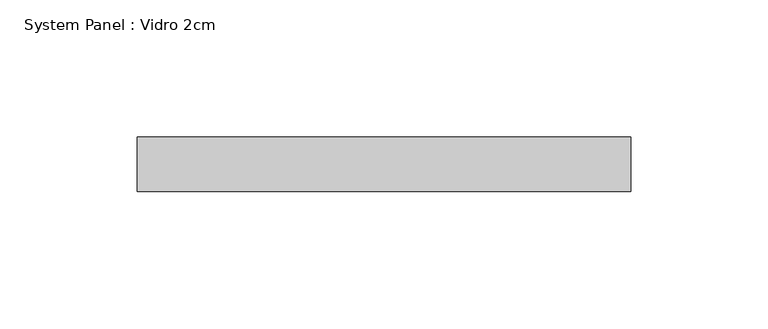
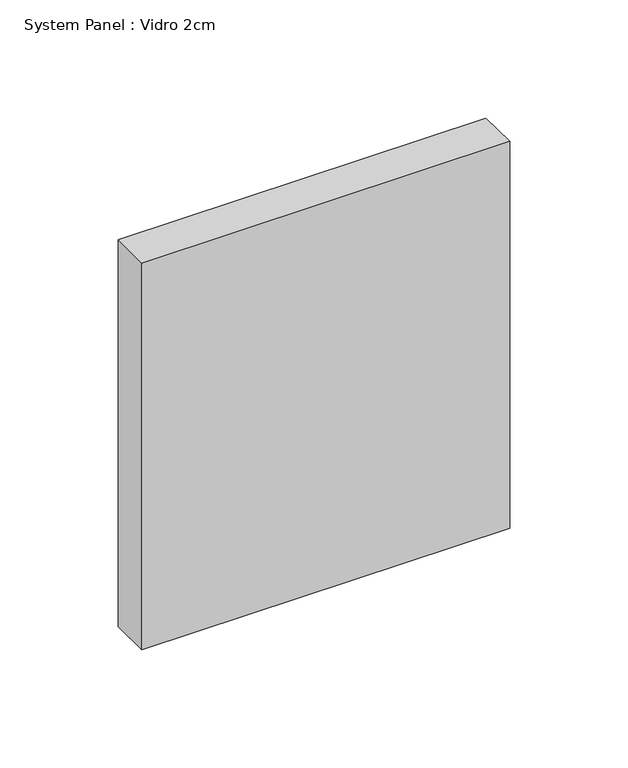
"""IFC4 building model written with IfcOpenShell, lengths in millimetres: plate geometry, System Panel : Vidro 2cm."""

import ifcopenshell
import ifcopenshell.guid

model = None  # the IFC model being written
_history = None  # IfcOwnerHistory: only IFC2X3 demands one
_inside = {}  # id of a spatial element -> (the spatial element, [elements in it])
_under = {}  # id of a project, library or spatial element -> (it, [spatial elements below it])
_declared = {}  # id of a project -> (the project, [libraries it declares])
_typed = {}  # id of a type object -> (the type object, [elements of that type])
_made_of = {}  # id of a material, layer set ... -> (it, [elements and type objects made of it])


def new_model(schema):
    """Start an empty IFC model of exactly this schema.

    Asked for "IFC4X3", IfcOpenShell would pick the latest addendum, in which some entities
    have other attributes; the version numbers below select the first issue.
    IFC2X3 requires an IfcOwnerHistory on every rooted entity: one is made here for all.
    """
    global model, _history
    if schema == "IFC4X3":
        model = ifcopenshell.file(schema_version=(4, 3, 0, 0))
    else:
        model = ifcopenshell.file(schema=schema)
    _inside.clear()
    _under.clear()
    _declared.clear()
    _typed.clear()
    _made_of.clear()
    _history = None
    if model.schema == "IFC2X3":
        org = make("IfcOrganization", Name="unknown")
        user = make(
            "IfcPersonAndOrganization",
            ThePerson=make("IfcPerson", FamilyName="unknown"),
            TheOrganization=org,
        )
        app = make(
            "IfcApplication",
            ApplicationDeveloper=org,
            Version="unknown",
            ApplicationFullName="unknown",
            ApplicationIdentifier="unknown",
        )
        _history = make(
            "IfcOwnerHistory",
            OwningUser=user,
            OwningApplication=app,
            ChangeAction="ADDED",
            CreationDate=0,
        )
    return model


def make(cls, **values):
    """One entity of the class cls with the attributes given. An attribute that is None is left unset."""
    return model.create_entity(
        cls, **{name: value for name, value in values.items() if value is not None}
    )


def rooted(cls, **values):
    """An entity with a GlobalId (a new one), such as an element, a storey or a relation."""
    return make(cls, GlobalId=ifcopenshell.guid.new(), OwnerHistory=_history, **values)


def si_unit(unit_type, name, prefix=None):
    """IfcSIUnit, for example si_unit("LENGTHUNIT", "METRE", prefix="MILLI")."""
    return make("IfcSIUnit", UnitType=unit_type, Prefix=prefix, Name=name)


def assignment(units):
    """IfcUnitAssignment: the units of a project."""
    return None if units is None else make("IfcUnitAssignment", Units=units)


def point(xyz):
    """IfcCartesianPoint."""
    return None if xyz is None else make("IfcCartesianPoint", Coordinates=xyz)


def direction(xyz):
    """IfcDirection."""
    return None if xyz is None else make("IfcDirection", DirectionRatios=xyz)


def frame(location, z_axis=None, x_axis=None):
    """IfcAxis2Placement3D, a coordinate frame: its origin and axes. An axis left out is left unset."""
    return make(
        "IfcAxis2Placement3D",
        Location=point(location),
        Axis=direction(z_axis),
        RefDirection=direction(x_axis),
    )


def origin():
    """The frame at (0, 0, 0) with its axes left unset."""
    return frame((0.0, 0.0, 0.0))


def origin_with_axes():
    """The frame at (0, 0, 0) with the z axis (0, 0, 1) and the x axis (1, 0, 0) written out."""
    return frame((0.0, 0.0, 0.0), z_axis=(0.0, 0.0, 1.0), x_axis=(1.0, 0.0, 0.0))


def place(relative_to, where):
    """IfcLocalPlacement: puts the frame where relative to a parent placement (None: the world)."""
    return make(
        "IfcLocalPlacement", PlacementRelTo=relative_to, RelativePlacement=where
    )


def context(
    kind, dimensions, precision=None, world=None, true_north=None, identifier=None
):
    """IfcGeometricRepresentationContext, for example the 3D "Model" context."""
    return make(
        "IfcGeometricRepresentationContext",
        ContextIdentifier=identifier,
        ContextType=kind,
        CoordinateSpaceDimension=dimensions,
        Precision=precision,
        WorldCoordinateSystem=world,
        TrueNorth=true_north,
    )


def project(units=None, contexts=None):
    """IfcProject with its units and contexts."""
    return rooted(
        "IfcProject",
        Name="project",
        RepresentationContexts=contexts,
        UnitsInContext=assignment(units),
    )


def spatial(cls, under=None, at=None, **own):
    """A site, building, storey or space (cls), placed at a placement, below another one or the project."""
    s = rooted(cls, ObjectPlacement=at, **own)
    if under is not None:
        _under.setdefault(under.id(), (under, []))[1].append(s)
    return s


def polyline(points):
    """IfcPolyline through the points."""
    return make("IfcPolyline", Points=[point(p) for p in points])


def outline(outer, holes=None, kind="AREA"):
    """IfcArbitraryClosedProfileDef: a profile drawn as a closed curve; with holes, ...WithVoids."""
    if holes is None:
        return make("IfcArbitraryClosedProfileDef", ProfileType=kind, OuterCurve=outer)
    return make(
        "IfcArbitraryProfileDefWithVoids",
        ProfileType=kind,
        OuterCurve=outer,
        InnerCurves=holes,
    )


def extrude(swept, where, along, depth):
    """IfcExtrudedAreaSolid: the profile swept, set in the frame where, extruded along a direction by depth."""
    return make(
        "IfcExtrudedAreaSolid",
        SweptArea=swept,
        Position=where,
        ExtrudedDirection=direction(along),
        Depth=depth,
    )


def shape(context_of_items, identifier, shape_type, items):
    """IfcShapeRepresentation: the items that make up one representation, for example the "Body"."""
    return make(
        "IfcShapeRepresentation",
        ContextOfItems=context_of_items,
        RepresentationIdentifier=identifier,
        RepresentationType=shape_type,
        Items=items,
    )


def source(mapping_origin, context_of_items, identifier, shape_type, items):
    """IfcRepresentationMap: a shape defined once, which mapped items show again and again."""
    return make(
        "IfcRepresentationMap",
        MappingOrigin=mapping_origin,
        MappedRepresentation=shape(context_of_items, identifier, shape_type, items),
    )


def transform(
    local_origin,
    x_axis=None,
    y_axis=None,
    z_axis=None,
    scale=None,
    scale2=None,
    scale3=None,
    uniform=True,
):
    """IfcCartesianTransformationOperator3D, or its non-uniform kind. x_axis, y_axis, z_axis: its Axis1, 2, 3."""
    if uniform:
        return make(
            "IfcCartesianTransformationOperator3D",
            Axis1=direction(x_axis),
            Axis2=direction(y_axis),
            LocalOrigin=point(local_origin),
            Scale=scale,
            Axis3=direction(z_axis),
        )
    return make(
        "IfcCartesianTransformationOperator3DnonUniform",
        Axis1=direction(x_axis),
        Axis2=direction(y_axis),
        LocalOrigin=point(local_origin),
        Scale=scale,
        Axis3=direction(z_axis),
        Scale2=scale2,
        Scale3=scale3,
    )


def mapped(mapping_source, mapping_target):
    """IfcMappedItem: shows the shape of a source again, moved by a transform."""
    return make(
        "IfcMappedItem", MappingSource=mapping_source, MappingTarget=mapping_target
    )


def made_of(thing, what):
    """Note that an element or type object is made of a material, layer set ...; save() writes the relation."""
    if what is not None:
        _made_of.setdefault(what.id(), (what, []))[1].append(thing)
    return thing


def element(
    cls,
    number,
    at=None,
    inside=None,
    cuts=None,
    type_object=None,
    material=None,
    context=None,
    identifier="Body",
    shape_type=None,
    held_by="IfcProductDefinitionShape",
    body=None,
    shapes=None,
    **own,
):
    """One element of the class cls, such as IfcWall. Its Tag is "e" and its number.

    at: its placement. inside: the storey or other place that contains it. cuts: it is an
    opening in that element (IfcRelVoidsElement). A single representation is given by context,
    identifier, shape_type and body (its items); several are given by shapes. held_by: the class
    of the entity that holds the representations. save() writes the other relations.
    """
    e = rooted(cls, Tag="e%d" % number, ObjectPlacement=at, **own)
    if body is not None:
        shapes = [shape(context, identifier, shape_type, body)]
    if shapes is not None:
        e.Representation = make(held_by, Representations=shapes)
    if inside is not None:
        _inside.setdefault(inside.id(), (inside, []))[1].append(e)
    if cuts is not None:
        rooted(
            "IfcRelVoidsElement", RelatingBuildingElement=cuts, RelatedOpeningElement=e
        )
    if type_object is not None:
        _typed.setdefault(type_object.id(), (type_object, []))[1].append(e)
    return made_of(e, material)


def aggregate(whole, parts):
    """IfcRelAggregates: a whole, such as a stair, and the parts it consists of."""
    return rooted("IfcRelAggregates", RelatingObject=whole, RelatedObjects=parts)


def save(model, path):
    """Write the relations noted so far, then the file.

    IfcRelAggregates (storeys below a building ...), IfcRelContainedInSpatialStructure (elements
    in a storey), IfcRelDefinesByType, IfcRelAssociatesMaterial and IfcRelDeclares: one each for
    every whole, place, type object, material and project.
    """
    for whole, parts in _under.values():
        aggregate(whole, parts)
    for where, things in _inside.values():
        rooted(
            "IfcRelContainedInSpatialStructure",
            RelatedElements=things,
            RelatingStructure=where,
        )
    for kind, things in _typed.values():
        rooted("IfcRelDefinesByType", RelatedObjects=things, RelatingType=kind)
    for what, things in _made_of.values():
        rooted("IfcRelAssociatesMaterial", RelatedObjects=things, RelatingMaterial=what)
    for by, libraries in _declared.values():
        rooted("IfcRelDeclares", RelatingContext=by, RelatedDefinitions=libraries)
    model.write(path)


def system_panel_vidro_2cm_242b1e41(model_context):
    return source(origin(), model_context, "Body", "SweptSolid", [
        extrude(outline(polyline([(90.0, -20.0), (-90.0, -20.0), (-90.0, 0.0), (90.0, 0.0), (90.0, -20.0)])), origin_with_axes(), (0.0, 0.0, 1.0), 200.0),
    ])


if __name__ == "__main__":
    model = new_model("IFC4")
    model_context = context("Model", 3, world=origin())
    ifc_project = project(units=[si_unit("LENGTHUNIT", "METRE", prefix="MILLI")], contexts=[model_context])
    site = spatial("IfcSite", under=ifc_project)
    building = spatial("IfcBuilding", under=site)
    placement = place(None, origin())
    system_panel_vidro_2cm_shape = system_panel_vidro_2cm_242b1e41(model_context)
    element("IfcPlate", 1, ObjectType="System Panel : Vidro 2cm", at=placement, inside=building, context=model_context, shape_type="MappedRepresentation", body=[
        mapped(system_panel_vidro_2cm_shape, transform((0.0, 0.0, 0.0), x_axis=(1.0, 0.0, 0.0), y_axis=(0.0, 1.0, 0.0), z_axis=(0.0, 0.0, 1.0))),
    ])
    save(model, "model.ifc")
